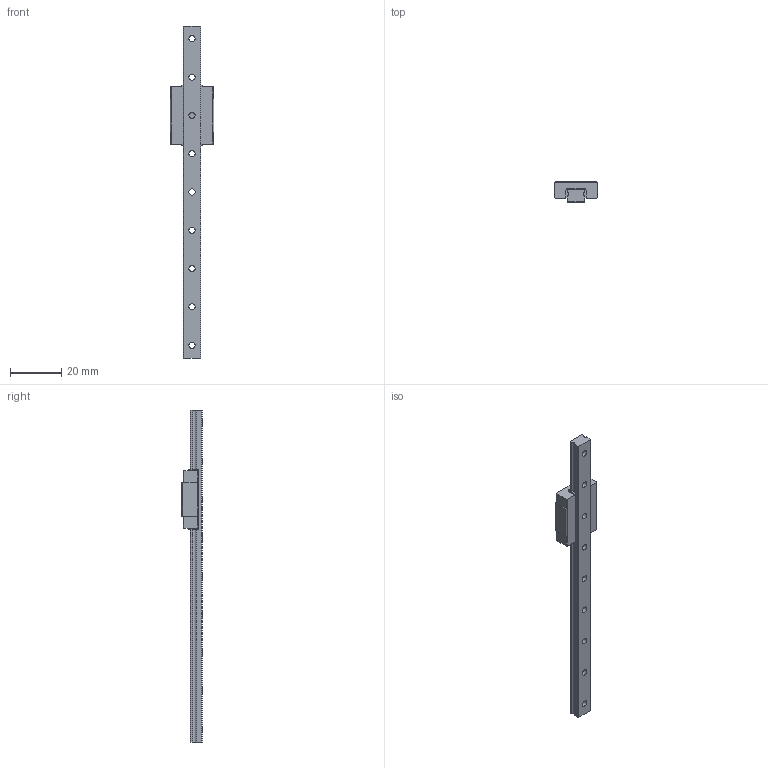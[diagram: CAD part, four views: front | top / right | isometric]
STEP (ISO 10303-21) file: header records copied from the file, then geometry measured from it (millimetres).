
FILE_DESCRIPTION(('STEP AP203'),'1');
FILE_NAME('//192.168.1.1/share/s-4 技術開発/s-4-4_CAD/s-4-4-3_見直し済み/015 修正済み/AMG/AMG_TOP/AMG7-B1-130.step','2022-03-11T05:22:07',(' '),(' '),'Spatial InterOp 3D',' ',' ');
FILE_SCHEMA(('CONFIG_CONTROL_DESIGN'));
Length unit declared in the file: millimetre
Products named in the file (2): 1; 2
Bounding box: 17 x 8 x 130 mm (x, y, z)
Volume: 5570.6 mm3; surface area: 5010 mm2
Topology: 2 solids, 2 shells, 115 faces, 286 edges, 184 vertices
Faces by surface type: plane 73, cylinder 38, cone 4
Full cylindrical faces by diameter (mm): 1.567 x8, 2.4 x9, 4.2 x9
Entity records: 3310 total; most frequent: DIRECTION 554, CARTESIAN_POINT 545, ORIENTED_EDGE 496, EDGE_CURVE 248, AXIS2_PLACEMENT_3D 189, VERTEX_POINT 180, LINE 176, VECTOR 176
